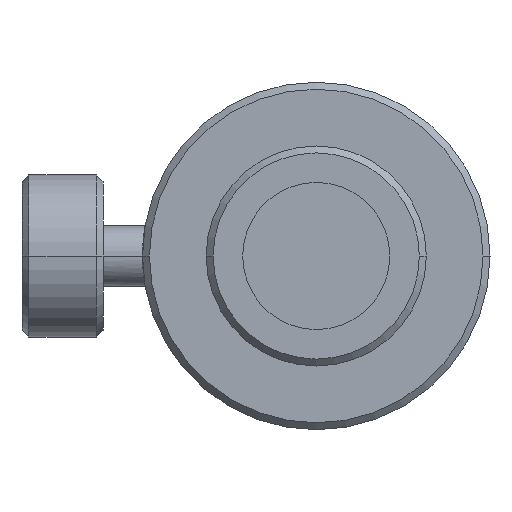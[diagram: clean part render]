
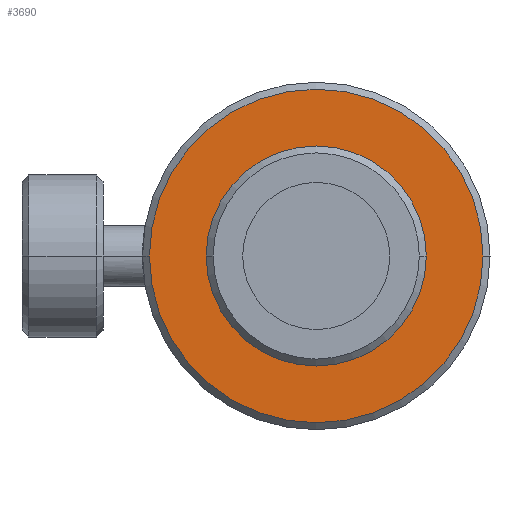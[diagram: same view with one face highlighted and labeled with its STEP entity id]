
A CAD part, left-side view. The second image highlights one B-rep face of the part: STEP entity #3690.
In plain terms, the highlighted planar face has unit normal (-1, 0, 0).
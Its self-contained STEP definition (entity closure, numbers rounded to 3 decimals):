
#2890=CARTESIAN_POINT('',(-44.75,123.975,0.));
#2900=VERTEX_POINT('965005-1663825556-b88584a677cb-0 894213',#2890);
#2980=CARTESIAN_POINT('',(-44.75,114.575,0.));
#2990=VERTEX_POINT('',#2980);
#3020=CARTESIAN_POINT('',(-44.75,119.275,0.));
#3030=DIRECTION('',(1.,0.,0.));
#3040=DIRECTION('',(0.,-1.,0.));
#3050=AXIS2_PLACEMENT_3D('',#3020,#3030,#3040);
#3060=CIRCLE('',#3050,4.7);
#3070=EDGE_CURVE('965005-1663825556-b88584a677cb-0 894395',#2990,#2900,
#3060,.T.);
#3440=CARTESIAN_POINT('',(-44.75,125.225,0.));
#3450=DIRECTION('',(-1.,0.,0.));
#3460=DIRECTION('',(0.,1.,0.));
#3470=AXIS2_PLACEMENT_3D('',#3440,#3450,#3460);
#3480=PLANE('',#3470);
#3490=CARTESIAN_POINT('',(-44.75,119.275,0.));
#3500=DIRECTION('',(-1.,-0.,0.));
#3510=DIRECTION('',(0.,-1.,0.));
#3520=AXIS2_PLACEMENT_3D('',#3490,#3500,#3510);
#3530=CIRCLE('',#3520,7.2);
#3540=CARTESIAN_POINT('',(-44.75,112.075,0.));
#3550=VERTEX_POINT('965005-1663825556-b88584a677cb-0 894217',#3540);
#3560=CARTESIAN_POINT('',(-44.75,126.475,0.));
#3570=VERTEX_POINT('',#3560);
#3580=EDGE_CURVE('965005-1663825556-b88584a677cb-0 894407',#3550,#3570,
#3530,.T.);
#3590=ORIENTED_EDGE('',*,*,#3580,.T.);
#3600=EDGE_CURVE('965005-1663825556-b88584a677cb-0 894407',#3570,#3550,
#3530,.T.);
#3610=ORIENTED_EDGE('',*,*,#3600,.T.);
#3620=EDGE_LOOP('',(#3610,#3590));
#3630=FACE_OUTER_BOUND('',#3620,.T.);
#3640=EDGE_CURVE('965005-1663825556-b88584a677cb-0 894395',#2900,#2990,
#3060,.T.);
#3650=ORIENTED_EDGE('',*,*,#3640,.T.);
#3660=ORIENTED_EDGE('',*,*,#3070,.T.);
#3670=EDGE_LOOP('',(#3660,#3650));
#3680=FACE_BOUND('',#3670,.T.);
#3690=ADVANCED_FACE('965005-1663825556-b88584a677cb-0 894406',(#3630,
#3680),#3480,.T.);
